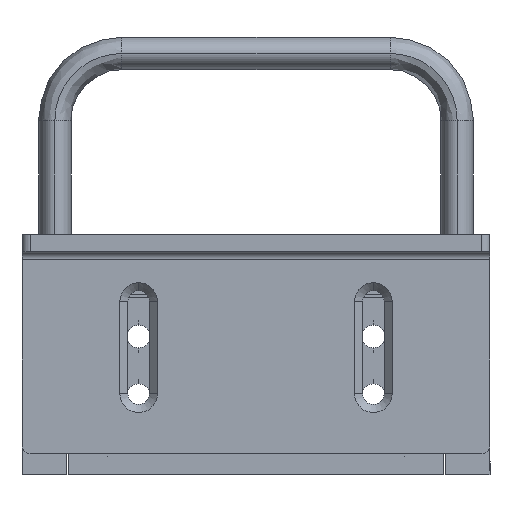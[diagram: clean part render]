
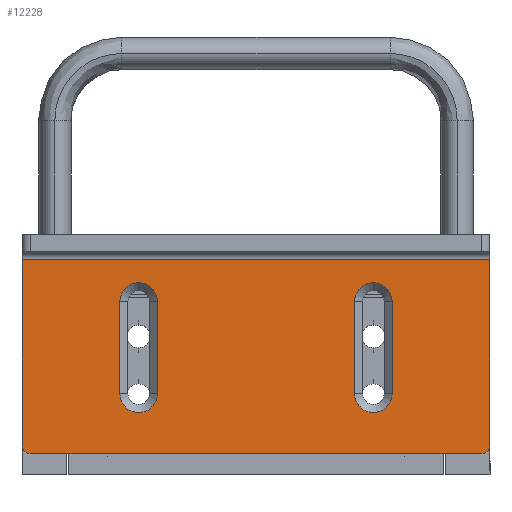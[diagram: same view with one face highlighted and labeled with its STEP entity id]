
A CAD part, left-side view. The second image highlights one B-rep face of the part: STEP entity #12228.
In plain terms, the highlighted planar face has unit normal (-1, 0, 0).
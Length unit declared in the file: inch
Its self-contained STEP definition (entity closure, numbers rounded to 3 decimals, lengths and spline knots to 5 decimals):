
#11 = EDGE_CURVE ( 'NONE', #2378, #3279, #9028, .T. ) ;
#102 = LINE ( 'NONE', #8047, #11952 ) ;
#245 = CARTESIAN_POINT ( 'NONE',  ( -8.715, -0.875, -1.1875 ) ) ;
#318 = CARTESIAN_POINT ( 'NONE',  ( -8.715, -1.6825, -1.6335 ) ) ;
#376 = FACE_BOUND ( 'NONE', #7506, .T. ) ;
#416 = VERTEX_POINT ( 'NONE', #10839 ) ;
#534 = VERTEX_POINT ( 'NONE', #6364 ) ;
#709 = CARTESIAN_POINT ( 'NONE',  ( -8.715, -1.745, -1.571 ) ) ;
#773 = LINE ( 'NONE', #2675, #4023 ) ;
#855 = EDGE_CURVE ( 'NONE', #1177, #3279, #8820, .T. ) ;
#923 = CARTESIAN_POINT ( 'NONE',  ( -8.715, 1.745, -1.6335 ) ) ;
#958 = ORIENTED_EDGE ( 'NONE', *, *, #7754, .T. ) ;
#960 = AXIS2_PLACEMENT_3D ( 'NONE', #4782, #3527, #1505 ) ;
#1134 = CARTESIAN_POINT ( 'NONE',  ( -8.715, 1.015, -0.5 ) ) ;
#1177 = VERTEX_POINT ( 'NONE', #10050 ) ;
#1182 = CARTESIAN_POINT ( 'NONE',  ( -8.715, -1.015, -1.6335 ) ) ;
#1253 = AXIS2_PLACEMENT_3D ( 'NONE', #10777, #11089, #8813 ) ;
#1394 = CIRCLE ( 'NONE', #10793, 0.0625 ) ;
#1432 = PLANE ( 'NONE',  #3669 ) ;
#1497 = CARTESIAN_POINT ( 'NONE',  ( -8.715, 0.875, -1.1875 ) ) ;
#1505 = DIRECTION ( 'NONE',  ( 0., 0., -1. ) ) ;
#1723 = CIRCLE ( 'NONE', #10477, 0.0625 ) ;
#1782 = VERTEX_POINT ( 'NONE', #3743 ) ;
#2090 = LINE ( 'NONE', #1182, #10899 ) ;
#2147 = VERTEX_POINT ( 'NONE', #8446 ) ;
#2289 = DIRECTION ( 'NONE',  ( 1., 0., 0. ) ) ;
#2332 = DIRECTION ( 'NONE',  ( 0., 0., -1. ) ) ;
#2378 = VERTEX_POINT ( 'NONE', #7147 ) ;
#2420 = CARTESIAN_POINT ( 'NONE',  ( -8.715, 1.745, -1.6335 ) ) ;
#2422 = DIRECTION ( 'NONE',  ( 0., 0., 1. ) ) ;
#2596 = EDGE_CURVE ( 'NONE', #7345, #4965, #102, .T. ) ;
#2656 = ORIENTED_EDGE ( 'NONE', *, *, #2596, .T. ) ;
#2675 = CARTESIAN_POINT ( 'NONE',  ( -8.715, 0.735, -1.6335 ) ) ;
#2693 = CARTESIAN_POINT ( 'NONE',  ( -8.715, -1.745, -1.6335 ) ) ;
#2732 = AXIS2_PLACEMENT_3D ( 'NONE', #1497, #2289, #6267 ) ;
#2803 = CARTESIAN_POINT ( 'NONE',  ( -8.715, -1.015, -0.5 ) ) ;
#2811 = ORIENTED_EDGE ( 'NONE', *, *, #5268, .T. ) ;
#2899 = ORIENTED_EDGE ( 'NONE', *, *, #11146, .T. ) ;
#2961 = DIRECTION ( 'NONE',  ( 0., 0., 1. ) ) ;
#3139 = VERTEX_POINT ( 'NONE', #10375 ) ;
#3232 = CARTESIAN_POINT ( 'NONE',  ( -8.715, -0.735, -1.1875 ) ) ;
#3263 = ORIENTED_EDGE ( 'NONE', *, *, #5930, .T. ) ;
#3279 = VERTEX_POINT ( 'NONE', #12570 ) ;
#3452 = CARTESIAN_POINT ( 'NONE',  ( -8.715, 1.745, -1.6335 ) ) ;
#3491 = CARTESIAN_POINT ( 'NONE',  ( -8.715, 0.875, -0.5 ) ) ;
#3527 = DIRECTION ( 'NONE',  ( 1., 0., 0. ) ) ;
#3599 = DIRECTION ( 'NONE',  ( 0., 0., 1. ) ) ;
#3662 = VECTOR ( 'NONE', #6399, 39.37008 ) ;
#3669 = AXIS2_PLACEMENT_3D ( 'NONE', #3452, #4257, #10124 ) ;
#3743 = CARTESIAN_POINT ( 'NONE',  ( -8.715, -1.015, -1.1875 ) ) ;
#3934 = VERTEX_POINT ( 'NONE', #6054 ) ;
#4023 = VECTOR ( 'NONE', #8675, 39.37008 ) ;
#4131 = DIRECTION ( 'NONE',  ( 0., 0., -1. ) ) ;
#4257 = DIRECTION ( 'NONE',  ( 1., 0., 0. ) ) ;
#4405 = ORIENTED_EDGE ( 'NONE', *, *, #11796, .T. ) ;
#4591 = EDGE_CURVE ( 'NONE', #7983, #3934, #8482, .T. ) ;
#4720 = CIRCLE ( 'NONE', #10552, 0.14 ) ;
#4782 = CARTESIAN_POINT ( 'NONE',  ( -8.715, -0.875, -0.5 ) ) ;
#4831 = EDGE_CURVE ( 'NONE', #5643, #1782, #2090, .T. ) ;
#4833 = CIRCLE ( 'NONE', #2732, 0.14 ) ;
#4965 = VERTEX_POINT ( 'NONE', #1134 ) ;
#5152 = DIRECTION ( 'NONE',  ( -1., 0., 0. ) ) ;
#5268 = EDGE_CURVE ( 'NONE', #11171, #2378, #11752, .T. ) ;
#5286 = DIRECTION ( 'NONE',  ( 1., 0., 0. ) ) ;
#5311 = LINE ( 'NONE', #2420, #3662 ) ;
#5621 = EDGE_CURVE ( 'NONE', #2147, #534, #773, .T. ) ;
#5643 = VERTEX_POINT ( 'NONE', #2803 ) ;
#5692 = DIRECTION ( 'NONE',  ( 1., 0., 0. ) ) ;
#5930 = EDGE_CURVE ( 'NONE', #1177, #12387, #1723, .T. ) ;
#5948 = ORIENTED_EDGE ( 'NONE', *, *, #9343, .T. ) ;
#5965 = CARTESIAN_POINT ( 'NONE',  ( -8.715, 1.745, -0.1885 ) ) ;
#6054 = CARTESIAN_POINT ( 'NONE',  ( -8.715, -0.735, -0.5 ) ) ;
#6267 = DIRECTION ( 'NONE',  ( 0., 0., -1. ) ) ;
#6281 = EDGE_CURVE ( 'NONE', #534, #7345, #4833, .T. ) ;
#6311 = CARTESIAN_POINT ( 'NONE',  ( -8.715, 1.6825, -1.571 ) ) ;
#6364 = CARTESIAN_POINT ( 'NONE',  ( -8.715, 0.735, -1.1875 ) ) ;
#6399 = DIRECTION ( 'NONE',  ( 0., -1., 0. ) ) ;
#6424 = DIRECTION ( 'NONE',  ( 0., 0., -1. ) ) ;
#7119 = VECTOR ( 'NONE', #3599, 39.37008 ) ;
#7147 = CARTESIAN_POINT ( 'NONE',  ( -8.715, -1.745, -0.1885 ) ) ;
#7345 = VERTEX_POINT ( 'NONE', #12568 ) ;
#7506 = EDGE_LOOP ( 'NONE', ( #958, #12468, #11110, #2899, #11124 ) ) ;
#7531 = DIRECTION ( 'NONE',  ( 1., 0., 0. ) ) ;
#7648 = CIRCLE ( 'NONE', #8694, 0.14 ) ;
#7670 = ORIENTED_EDGE ( 'NONE', *, *, #8739, .T. ) ;
#7700 = EDGE_CURVE ( 'NONE', #9104, #11171, #1394, .T. ) ;
#7754 = EDGE_CURVE ( 'NONE', #1782, #7983, #7648, .T. ) ;
#7770 = CARTESIAN_POINT ( 'NONE',  ( -8.715, -0.875, -0.5 ) ) ;
#7983 = VERTEX_POINT ( 'NONE', #3232 ) ;
#8047 = CARTESIAN_POINT ( 'NONE',  ( -8.715, 1.015, -1.6335 ) ) ;
#8145 = DIRECTION ( 'NONE',  ( 0., 0., -1. ) ) ;
#8156 = FACE_OUTER_BOUND ( 'NONE', #10704, .T. ) ;
#8226 = CARTESIAN_POINT ( 'NONE',  ( -8.715, -0.735, -1.6335 ) ) ;
#8244 = ORIENTED_EDGE ( 'NONE', *, *, #855, .F. ) ;
#8307 = AXIS2_PLACEMENT_3D ( 'NONE', #3491, #7531, #6424 ) ;
#8446 = CARTESIAN_POINT ( 'NONE',  ( -8.715, 0.735, -0.5 ) ) ;
#8482 = LINE ( 'NONE', #8226, #12338 ) ;
#8614 = VECTOR ( 'NONE', #11953, 39.37008 ) ;
#8633 = ORIENTED_EDGE ( 'NONE', *, *, #5621, .T. ) ;
#8675 = DIRECTION ( 'NONE',  ( 0., 0., -1. ) ) ;
#8694 = AXIS2_PLACEMENT_3D ( 'NONE', #245, #5286, #2332 ) ;
#8739 = EDGE_CURVE ( 'NONE', #416, #2147, #8938, .T. ) ;
#8757 = DIRECTION ( 'NONE',  ( 0., 0., -1. ) ) ;
#8813 = DIRECTION ( 'NONE',  ( 0., 0., -1. ) ) ;
#8820 = LINE ( 'NONE', #923, #8614 ) ;
#8890 = DIRECTION ( 'NONE',  ( 0., 1., 0. ) ) ;
#8938 = CIRCLE ( 'NONE', #8307, 0.14 ) ;
#9028 = LINE ( 'NONE', #5965, #10060 ) ;
#9104 = VERTEX_POINT ( 'NONE', #318 ) ;
#9317 = CARTESIAN_POINT ( 'NONE',  ( -8.715, -1.6825, -1.571 ) ) ;
#9343 = EDGE_CURVE ( 'NONE', #4965, #416, #12079, .T. ) ;
#9709 = CIRCLE ( 'NONE', #960, 0.14 ) ;
#9776 = ORIENTED_EDGE ( 'NONE', *, *, #7700, .T. ) ;
#10050 = CARTESIAN_POINT ( 'NONE',  ( -8.715, 1.745, -1.571 ) ) ;
#10060 = VECTOR ( 'NONE', #8890, 39.37008 ) ;
#10124 = DIRECTION ( 'NONE',  ( 0., 0., -1. ) ) ;
#10375 = CARTESIAN_POINT ( 'NONE',  ( -8.715, -0.875, -0.36 ) ) ;
#10477 = AXIS2_PLACEMENT_3D ( 'NONE', #6311, #5152, #8145 ) ;
#10552 = AXIS2_PLACEMENT_3D ( 'NONE', #7770, #5692, #8757 ) ;
#10704 = EDGE_LOOP ( 'NONE', ( #4405, #9776, #2811, #11777, #8244, #3263 ) ) ;
#10777 = CARTESIAN_POINT ( 'NONE',  ( -8.715, 0.875, -0.5 ) ) ;
#10793 = AXIS2_PLACEMENT_3D ( 'NONE', #9317, #12122, #11351 ) ;
#10839 = CARTESIAN_POINT ( 'NONE',  ( -8.715, 0.875, -0.36 ) ) ;
#10899 = VECTOR ( 'NONE', #4131, 39.37008 ) ;
#11089 = DIRECTION ( 'NONE',  ( 1., 0., 0. ) ) ;
#11110 = ORIENTED_EDGE ( 'NONE', *, *, #12037, .T. ) ;
#11124 = ORIENTED_EDGE ( 'NONE', *, *, #4831, .T. ) ;
#11146 = EDGE_CURVE ( 'NONE', #3139, #5643, #9709, .T. ) ;
#11171 = VERTEX_POINT ( 'NONE', #709 ) ;
#11351 = DIRECTION ( 'NONE',  ( 0., 0., -1. ) ) ;
#11491 = CARTESIAN_POINT ( 'NONE',  ( -8.715, 1.6825, -1.6335 ) ) ;
#11752 = LINE ( 'NONE', #2693, #7119 ) ;
#11777 = ORIENTED_EDGE ( 'NONE', *, *, #11, .T. ) ;
#11796 = EDGE_CURVE ( 'NONE', #12387, #9104, #5311, .T. ) ;
#11952 = VECTOR ( 'NONE', #2961, 39.37008 ) ;
#11953 = DIRECTION ( 'NONE',  ( 0., 0., 1. ) ) ;
#12037 = EDGE_CURVE ( 'NONE', #3934, #3139, #4720, .T. ) ;
#12079 = CIRCLE ( 'NONE', #1253, 0.14 ) ;
#12122 = DIRECTION ( 'NONE',  ( -1., 0., 0. ) ) ;
#12228 = ADVANCED_FACE ( 'NONE', ( #376, #12384, #8156 ), #1432, .F. ) ;
#12338 = VECTOR ( 'NONE', #2422, 39.37008 ) ;
#12384 = FACE_BOUND ( 'NONE', #12862, .T. ) ;
#12387 = VERTEX_POINT ( 'NONE', #11491 ) ;
#12468 = ORIENTED_EDGE ( 'NONE', *, *, #4591, .T. ) ;
#12568 = CARTESIAN_POINT ( 'NONE',  ( -8.715, 1.015, -1.1875 ) ) ;
#12570 = CARTESIAN_POINT ( 'NONE',  ( -8.715, 1.745, -0.1885 ) ) ;
#12676 = ORIENTED_EDGE ( 'NONE', *, *, #6281, .T. ) ;
#12862 = EDGE_LOOP ( 'NONE', ( #12676, #2656, #5948, #7670, #8633 ) ) ;
